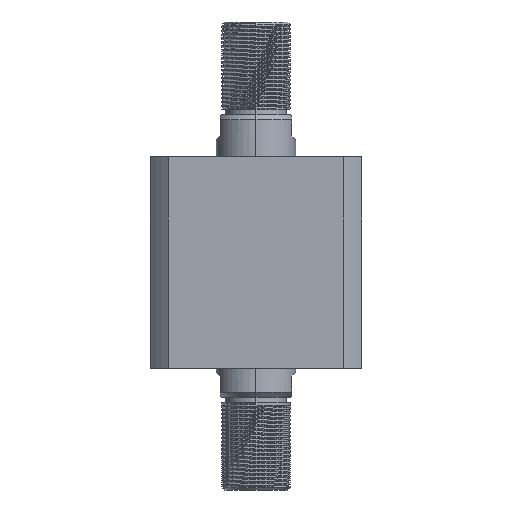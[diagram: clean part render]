
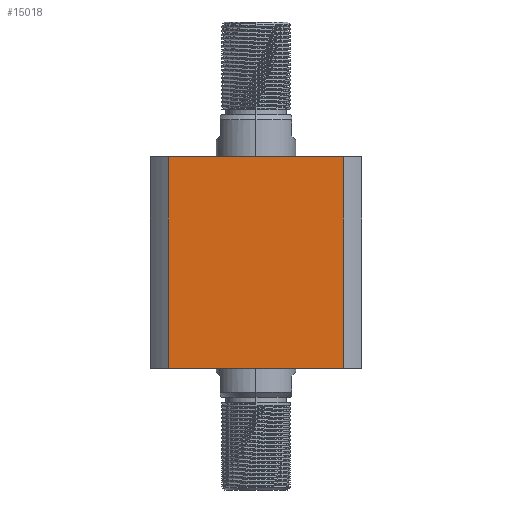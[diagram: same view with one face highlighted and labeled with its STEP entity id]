
A CAD part, left-side view. The second image highlights one B-rep face of the part: STEP entity #15018.
In plain terms, the highlighted planar face has unit normal (-1, 0, 0).
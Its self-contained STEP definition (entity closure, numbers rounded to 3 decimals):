
#247 = ORIENTED_EDGE ( 'NONE', *, *, #1057, .T. ) ;
#1057 = EDGE_CURVE ( 'NONE', #9454, #9625, #17005, .T. ) ;
#1264 = CARTESIAN_POINT ( 'NONE',  ( -40., -33.226, 40. ) ) ;
#1588 = CARTESIAN_POINT ( 'NONE',  ( -40., 33.226, 40. ) ) ;
#2197 = DIRECTION ( 'NONE',  ( 0., 1., 0. ) ) ;
#2364 = PLANE ( 'NONE',  #15117 ) ;
#2460 = EDGE_LOOP ( 'NONE', ( #247, #3697, #15079, #16156 ) ) ;
#2499 = CARTESIAN_POINT ( 'NONE',  ( -40., -33.226, -40. ) ) ;
#2750 = VECTOR ( 'NONE', #13624, 1000. ) ;
#3184 = LINE ( 'NONE', #13565, #2750 ) ;
#3480 = CARTESIAN_POINT ( 'NONE',  ( -40., 33.226, 40. ) ) ;
#3697 = ORIENTED_EDGE ( 'NONE', *, *, #7300, .F. ) ;
#4818 = CARTESIAN_POINT ( 'NONE',  ( -40., -33.226, 40. ) ) ;
#6882 = DIRECTION ( 'NONE',  ( 0., -1., 0. ) ) ;
#7300 = EDGE_CURVE ( 'NONE', #9710, #9625, #12613, .T. ) ;
#8450 = EDGE_CURVE ( 'NONE', #16469, #9710, #9593, .T. ) ;
#9454 = VERTEX_POINT ( 'NONE', #10142 ) ;
#9555 = FACE_OUTER_BOUND ( 'NONE', #2460, .T. ) ;
#9593 = LINE ( 'NONE', #1588, #15125 ) ;
#9625 = VERTEX_POINT ( 'NONE', #2499 ) ;
#9696 = CARTESIAN_POINT ( 'NONE',  ( -40., 33.226, 40. ) ) ;
#9710 = VERTEX_POINT ( 'NONE', #1264 ) ;
#10142 = CARTESIAN_POINT ( 'NONE',  ( -40., 33.226, -40. ) ) ;
#10690 = VECTOR ( 'NONE', #11654, 1000. ) ;
#11654 = DIRECTION ( 'NONE',  ( 0., 0., -1. ) ) ;
#12180 = CARTESIAN_POINT ( 'NONE',  ( -40., 33.226, -40. ) ) ;
#12550 = DIRECTION ( 'NONE',  ( 0., -1., 0. ) ) ;
#12613 = LINE ( 'NONE', #4818, #10690 ) ;
#13188 = VECTOR ( 'NONE', #6882, 1000. ) ;
#13565 = CARTESIAN_POINT ( 'NONE',  ( -40., 33.226, 40. ) ) ;
#13624 = DIRECTION ( 'NONE',  ( 0., 0., -1. ) ) ;
#15018 = ADVANCED_FACE ( 'NONE', ( #9555 ), #2364, .F. ) ;
#15079 = ORIENTED_EDGE ( 'NONE', *, *, #8450, .F. ) ;
#15117 = AXIS2_PLACEMENT_3D ( 'NONE', #3480, #15718, #2197 ) ;
#15125 = VECTOR ( 'NONE', #12550, 1000. ) ;
#15383 = EDGE_CURVE ( 'NONE', #16469, #9454, #3184, .T. ) ;
#15718 = DIRECTION ( 'NONE',  ( 1., 0., 0. ) ) ;
#16156 = ORIENTED_EDGE ( 'NONE', *, *, #15383, .T. ) ;
#16469 = VERTEX_POINT ( 'NONE', #9696 ) ;
#17005 = LINE ( 'NONE', #12180, #13188 ) ;
